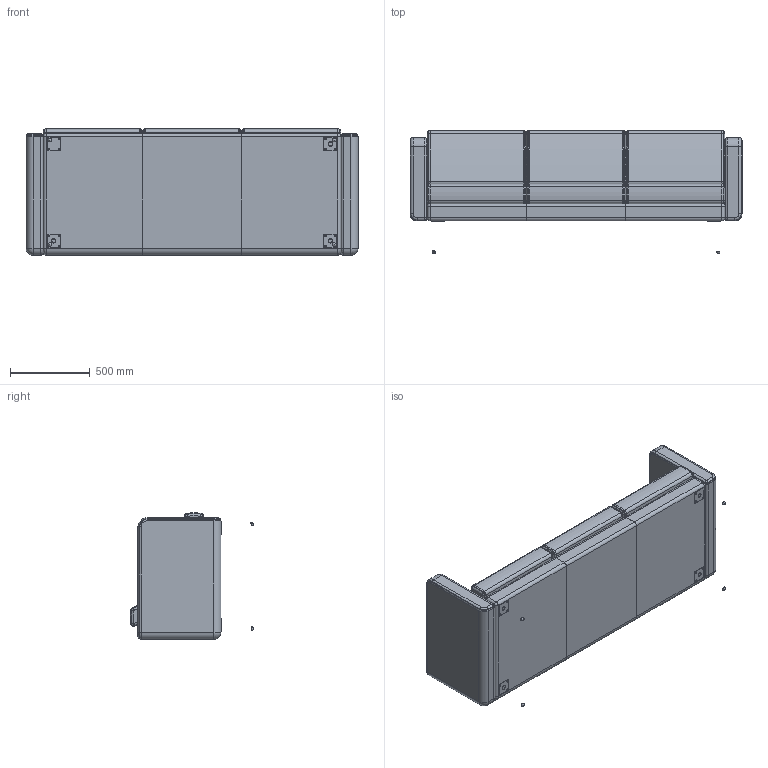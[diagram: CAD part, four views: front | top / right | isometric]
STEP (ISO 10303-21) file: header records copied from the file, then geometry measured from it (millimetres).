
FILE_DESCRIPTION(/* description */ (''),/* implementation_level */ '2;1');
FILE_NAME(/* name */ '9113.step',/* time_stamp */ '2026-07-29T13:58:55-07:00',/* author */ (''),/* organization */ (''),/* preprocessor_version */ 'ST-DEVELOPER v20.1',/* originating_system */ 'Autodesk Translation Framework v15.8.0.0',/* authorisation */ '');
FILE_SCHEMA (('AUTOMOTIVE_DESIGN { 1 0 10303 214 3 1 1 }'));
Length unit declared in the file: inch
Products named in the file (1): 2026-06-05-14-04-39-452
Bounding box: 2082.8 x 773.05 x 793.38 mm (x, y, z)
Volume: 574082297.8 mm3; surface area: 14624621.5 mm2
Topology: 40 solids, 40 shells, 841 faces, 1811 edges, 1040 vertices
Faces by surface type: cylinder 295, torus 266, plane 156, sphere 68, bspline 48, cone 8
Full cylindrical faces by diameter (mm): 9.525 x12
Entity records: 24673 total; most frequent: CARTESIAN_POINT 5907, DIRECTION 4441, ORIENTED_EDGE 3602, AXIS2_PLACEMENT_3D 1942, EDGE_CURVE 1801, CIRCLE 1098, VERTEX_POINT 1040, EDGE_LOOP 873
